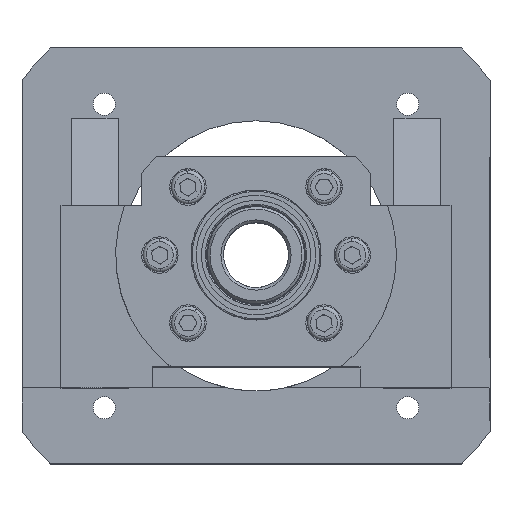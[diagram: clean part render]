
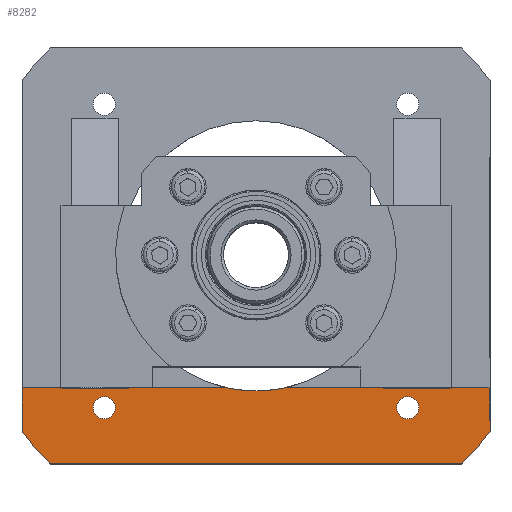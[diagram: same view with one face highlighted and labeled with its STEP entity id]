
A CAD part, top view. The second image highlights one B-rep face of the part: STEP entity #8282.
In plain terms, the highlighted planar face has unit normal (0, 0, 1).
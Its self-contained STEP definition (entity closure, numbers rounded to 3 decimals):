
#175 = ORIENTED_EDGE ( 'NONE', *, *, #16056, .T. ) ;
#210 = FACE_OUTER_BOUND ( 'NONE', #12893, .T. ) ;
#434 = AXIS2_PLACEMENT_3D ( 'NONE', #2638, #11569, #3910 ) ;
#831 = CARTESIAN_POINT ( 'NONE',  ( -90., -50.7, 21. ) ) ;
#852 = DIRECTION ( 'NONE',  ( 1., 0., 0. ) ) ;
#864 = DIRECTION ( 'NONE',  ( 0., 0., 1. ) ) ;
#866 = DIRECTION ( 'NONE',  ( 0., -1., 0. ) ) ;
#1461 = DIRECTION ( 'NONE',  ( 0., 0., 1. ) ) ;
#1559 = LINE ( 'NONE', #4763, #14329 ) ;
#1627 = ORIENTED_EDGE ( 'NONE', *, *, #14188, .F. ) ;
#1722 = CARTESIAN_POINT ( 'NONE',  ( 11.555, -50.7, 21. ) ) ;
#1897 = VERTEX_POINT ( 'NONE', #1722 ) ;
#1939 = DIRECTION ( 'NONE',  ( 0., 0., -1. ) ) ;
#1940 = DIRECTION ( 'NONE',  ( 0., 1., 0. ) ) ;
#2014 = VECTOR ( 'NONE', #15500, 1000. ) ;
#2179 = EDGE_CURVE ( 'NONE', #7123, #11888, #16074, .T. ) ;
#2503 = EDGE_CURVE ( 'NONE', #1897, #12301, #3935, .T. ) ;
#2576 = CARTESIAN_POINT ( 'NONE',  ( -90., -80., 21. ) ) ;
#2638 = CARTESIAN_POINT ( 'NONE',  ( 0., 0., 21. ) ) ;
#3000 = CIRCLE ( 'NONE', #8742, 4.25 ) ;
#3469 = DIRECTION ( 'NONE',  ( 0., 0., 1. ) ) ;
#3476 = CARTESIAN_POINT ( 'NONE',  ( -104.626, -50.7, 21. ) ) ;
#3701 = CARTESIAN_POINT ( 'NONE',  ( -79.096, -80., 21. ) ) ;
#3804 = EDGE_LOOP ( 'NONE', ( #7906, #1627 ) ) ;
#3910 = DIRECTION ( 'NONE',  ( 1., 0., 0. ) ) ;
#3927 = EDGE_CURVE ( 'NONE', #4178, #11376, #13270, .T. ) ;
#3935 = CIRCLE ( 'NONE', #13280, 52. ) ;
#3997 = CIRCLE ( 'NONE', #7838, 4.25 ) ;
#4039 = CARTESIAN_POINT ( 'NONE',  ( 58.336, -58.336, 21. ) ) ;
#4106 = VERTEX_POINT ( 'NONE', #11206 ) ;
#4178 = VERTEX_POINT ( 'NONE', #11257 ) ;
#4430 = CARTESIAN_POINT ( 'NONE',  ( -58.336, -58.336, 21. ) ) ;
#4628 = CARTESIAN_POINT ( 'NONE',  ( -54.086, -58.336, 21. ) ) ;
#4763 = CARTESIAN_POINT ( 'NONE',  ( -90., 80., 21. ) ) ;
#5169 = VECTOR ( 'NONE', #16177, 1000. ) ;
#5242 = EDGE_CURVE ( 'NONE', #11376, #14554, #14828, .T. ) ;
#5323 = CARTESIAN_POINT ( 'NONE',  ( -104.626, -50.7, 21. ) ) ;
#5326 = DIRECTION ( 'NONE',  ( 1., 0., 0. ) ) ;
#5327 = ORIENTED_EDGE ( 'NONE', *, *, #5242, .T. ) ;
#5550 = AXIS2_PLACEMENT_3D ( 'NONE', #8557, #864, #9831 ) ;
#5696 = DIRECTION ( 'NONE',  ( 1., 0., 0. ) ) ;
#6211 = VECTOR ( 'NONE', #12776, 1000. ) ;
#6454 = CARTESIAN_POINT ( 'NONE',  ( -90., -67.5, 21. ) ) ;
#7067 = CARTESIAN_POINT ( 'NONE',  ( -11.555, -50.7, 21. ) ) ;
#7123 = VERTEX_POINT ( 'NONE', #6454 ) ;
#7234 = EDGE_CURVE ( 'NONE', #1897, #14554, #15578, .T. ) ;
#7271 = PLANE ( 'NONE',  #9081 ) ;
#7781 = AXIS2_PLACEMENT_3D ( 'NONE', #11120, #3469, #12408 ) ;
#7838 = AXIS2_PLACEMENT_3D ( 'NONE', #4039, #12948, #5326 ) ;
#7873 = EDGE_CURVE ( 'NONE', #4106, #8798, #13771, .T. ) ;
#7906 = ORIENTED_EDGE ( 'NONE', *, *, #9353, .F. ) ;
#8282 = ADVANCED_FACE ( 'NONE', ( #10007, #10583, #210 ), #7271, .T. ) ;
#8320 = CARTESIAN_POINT ( 'NONE',  ( 90., 80., 21. ) ) ;
#8545 = CARTESIAN_POINT ( 'NONE',  ( -104.626, -111., 21. ) ) ;
#8557 = CARTESIAN_POINT ( 'NONE',  ( -58.336, -58.336, 21. ) ) ;
#8698 = VERTEX_POINT ( 'NONE', #10029 ) ;
#8713 = ORIENTED_EDGE ( 'NONE', *, *, #10836, .F. ) ;
#8742 = AXIS2_PLACEMENT_3D ( 'NONE', #4430, #13334, #5696 ) ;
#8798 = VERTEX_POINT ( 'NONE', #10145 ) ;
#9081 = AXIS2_PLACEMENT_3D ( 'NONE', #8545, #12319, #852 ) ;
#9124 = CARTESIAN_POINT ( 'NONE',  ( 58.336, -58.336, 21. ) ) ;
#9155 = CARTESIAN_POINT ( 'NONE',  ( 90., -67.5, 21. ) ) ;
#9353 = EDGE_CURVE ( 'NONE', #8698, #16455, #13562, .T. ) ;
#9595 = CARTESIAN_POINT ( 'NONE',  ( 0., 0., 21. ) ) ;
#9678 = EDGE_CURVE ( 'NONE', #8798, #4106, #3997, .T. ) ;
#9831 = DIRECTION ( 'NONE',  ( 1., 0., 0. ) ) ;
#10007 = FACE_BOUND ( 'NONE', #16305, .T. ) ;
#10029 = CARTESIAN_POINT ( 'NONE',  ( -62.586, -58.336, 21. ) ) ;
#10145 = CARTESIAN_POINT ( 'NONE',  ( 62.586, -58.336, 21. ) ) ;
#10405 = DIRECTION ( 'NONE',  ( 1., 0., 0. ) ) ;
#10583 = FACE_BOUND ( 'NONE', #3804, .T. ) ;
#10817 = VERTEX_POINT ( 'NONE', #831 ) ;
#10836 = EDGE_CURVE ( 'NONE', #10817, #12301, #15327, .T. ) ;
#10868 = DIRECTION ( 'NONE',  ( 1., 0., 0. ) ) ;
#11120 = CARTESIAN_POINT ( 'NONE',  ( 0., 0., 21. ) ) ;
#11206 = CARTESIAN_POINT ( 'NONE',  ( 54.086, -58.336, 21. ) ) ;
#11257 = CARTESIAN_POINT ( 'NONE',  ( 79.096, -80., 21. ) ) ;
#11376 = VERTEX_POINT ( 'NONE', #9155 ) ;
#11378 = CARTESIAN_POINT ( 'NONE',  ( 90., -50.7, 21. ) ) ;
#11569 = DIRECTION ( 'NONE',  ( 0., 0., 1. ) ) ;
#11888 = VERTEX_POINT ( 'NONE', #3701 ) ;
#12301 = VERTEX_POINT ( 'NONE', #7067 ) ;
#12319 = DIRECTION ( 'NONE',  ( 0., 0., 1. ) ) ;
#12376 = ORIENTED_EDGE ( 'NONE', *, *, #7234, .F. ) ;
#12408 = DIRECTION ( 'NONE',  ( 1., 0., 0. ) ) ;
#12510 = ORIENTED_EDGE ( 'NONE', *, *, #7873, .F. ) ;
#12682 = EDGE_CURVE ( 'NONE', #11888, #4178, #13773, .T. ) ;
#12734 = ORIENTED_EDGE ( 'NONE', *, *, #9678, .F. ) ;
#12776 = DIRECTION ( 'NONE',  ( 1., 0., 0. ) ) ;
#12893 = EDGE_LOOP ( 'NONE', ( #175, #15281, #15521, #12907, #5327, #12376, #13136, #8713 ) ) ;
#12907 = ORIENTED_EDGE ( 'NONE', *, *, #3927, .T. ) ;
#12948 = DIRECTION ( 'NONE',  ( 0., 0., 1. ) ) ;
#13111 = AXIS2_PLACEMENT_3D ( 'NONE', #9124, #1461, #10405 ) ;
#13136 = ORIENTED_EDGE ( 'NONE', *, *, #2503, .T. ) ;
#13270 = CIRCLE ( 'NONE', #7781, 112.5 ) ;
#13280 = AXIS2_PLACEMENT_3D ( 'NONE', #9595, #1939, #10868 ) ;
#13334 = DIRECTION ( 'NONE',  ( 0., 0., 1. ) ) ;
#13562 = CIRCLE ( 'NONE', #5550, 4.25 ) ;
#13771 = CIRCLE ( 'NONE', #13111, 4.25 ) ;
#13773 = LINE ( 'NONE', #2576, #6211 ) ;
#14188 = EDGE_CURVE ( 'NONE', #16455, #8698, #3000, .T. ) ;
#14329 = VECTOR ( 'NONE', #866, 1000. ) ;
#14554 = VERTEX_POINT ( 'NONE', #11378 ) ;
#14828 = LINE ( 'NONE', #8320, #15232 ) ;
#15232 = VECTOR ( 'NONE', #1940, 1000. ) ;
#15281 = ORIENTED_EDGE ( 'NONE', *, *, #2179, .T. ) ;
#15327 = LINE ( 'NONE', #3476, #5169 ) ;
#15500 = DIRECTION ( 'NONE',  ( 1., 0., 0. ) ) ;
#15521 = ORIENTED_EDGE ( 'NONE', *, *, #12682, .T. ) ;
#15578 = LINE ( 'NONE', #5323, #2014 ) ;
#16056 = EDGE_CURVE ( 'NONE', #10817, #7123, #1559, .T. ) ;
#16074 = CIRCLE ( 'NONE', #434, 112.5 ) ;
#16177 = DIRECTION ( 'NONE',  ( 1., 0., 0. ) ) ;
#16305 = EDGE_LOOP ( 'NONE', ( #12510, #12734 ) ) ;
#16455 = VERTEX_POINT ( 'NONE', #4628 ) ;
